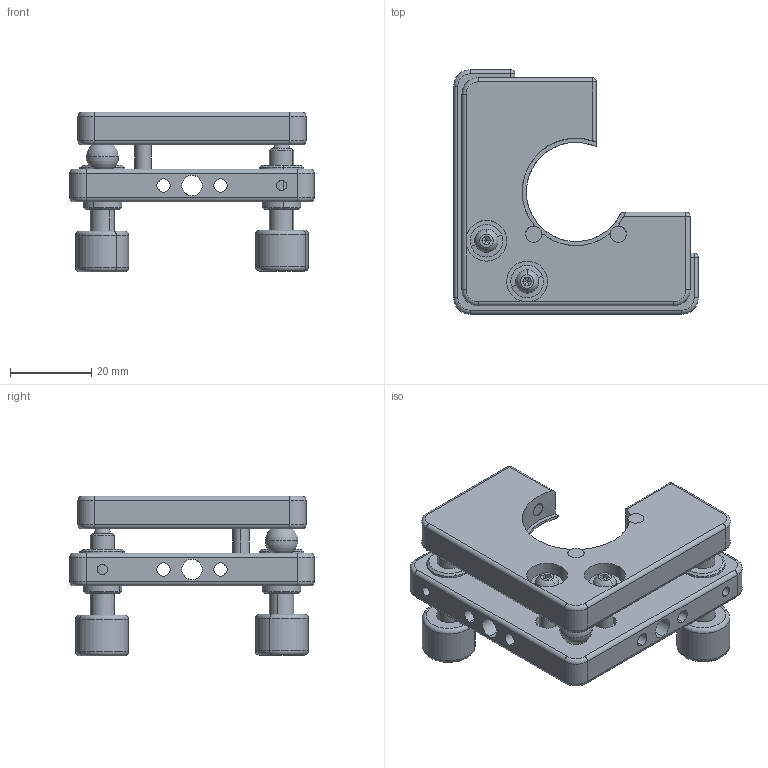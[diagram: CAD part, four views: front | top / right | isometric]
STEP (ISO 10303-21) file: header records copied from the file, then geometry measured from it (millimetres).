
FILE_DESCRIPTION (( 'STEP AP203' ), '1' );
FILE_NAME ('7MM03254謗峎覃誹噩殤.STEP', '2019-10-17T07:07:45', ( '' ), ( '' ), 'SwSTEP 2.0', 'SolidWorks 2014', '' );
FILE_SCHEMA (( 'CONFIG_CONTROL_DESIGN' ));
Length unit declared in the file: millimetre
Products named in the file (1): 7MM03254謗峎覃誹噩殤
Bounding box: 60 x 60 x 39.19 mm (x, y, z)
Surface area: 16261.8 mm2 (no closed solid volume)
Topology: 0 solids, 38 shells, 303 faces, 753 edges, 460 vertices
Faces by surface type: cylinder 127, plane 88, cone 42, torus 24, sphere 22
Entity records: 9439 total; most frequent: CARTESIAN_POINT 2165, DIRECTION 1669, ORIENTED_EDGE 1298, EDGE_CURVE 726, AXIS2_PLACEMENT_3D 677, VERTEX_POINT 451, CIRCLE 373, EDGE_LOOP 346
